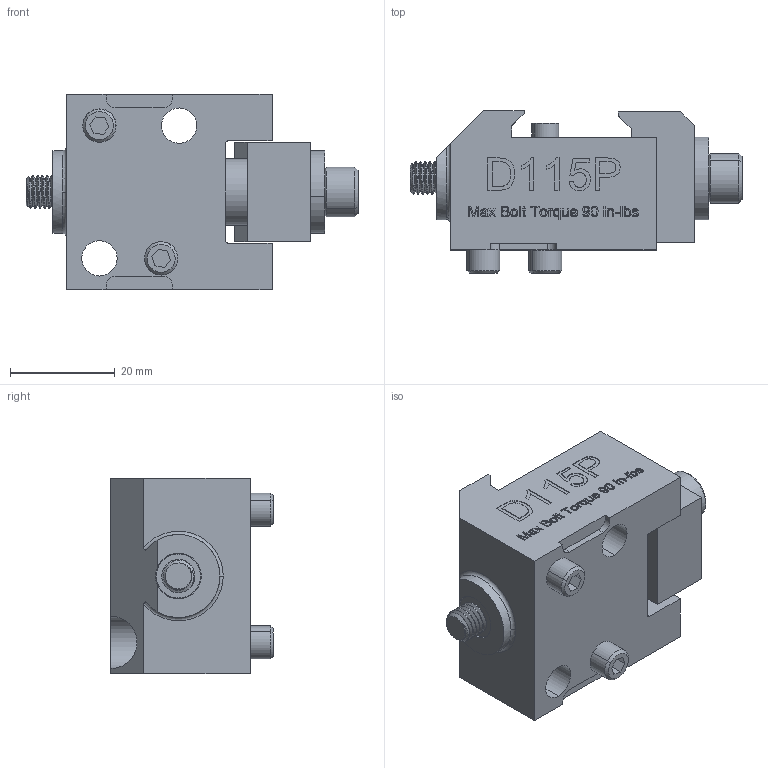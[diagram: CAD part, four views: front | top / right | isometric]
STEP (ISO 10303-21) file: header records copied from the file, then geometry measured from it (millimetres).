
FILE_DESCRIPTION (( 'STEP AP214' ), '1' );
FILE_NAME ('D115P.STEP', '2019-05-07T15:13:37', ( '' ), ( '' ), 'SwSTEP 2.0', 'SolidWorks 2018', '' );
FILE_SCHEMA (( 'AUTOMOTIVE_DESIGN' ));
Length unit declared in the file: inch
Products named in the file (10): LP250P_NO THREADS ; HW.LC049E05M; HW.73074_DEFAULT; HW.0250.FW_DEFAULT; HW.01480; SLD25_SLD25; CDS25; LP250_NO THREADS ; D1151P-1_FINISHED PART; D115P
Assembly tree (10 placements, depth 2):
  D115P
    D1151P-1_FINISHED PART
    LP250_NO THREADS   x2
    CDS25
    SLD25_SLD25
    HW.01480
    HW.0250.FW_DEFAULT
    HW.73074_DEFAULT
    HW.LC049E05M
    LP250P_NO THREADS 
Bounding box: 63.5 x 31.11 x 37.34 mm (x, y, z)
Volume: 33847.5 mm3; surface area: 18672.1 mm2
Topology: 10 solids, 10 shells, 902 faces, 2342 edges, 1544 vertices
Faces by surface type: plane 400, bspline 227, cylinder 216, cone 51, torus 8
Entity records: 48622 total; most frequent: CARTESIAN_POINT 22927, ORIENTED_EDGE 4478, DIRECTION 2975, EDGE_CURVE 2239, VERTEX_POINT 1479, VECTOR 1285, LINE 1285, EDGE_LOOP 964
